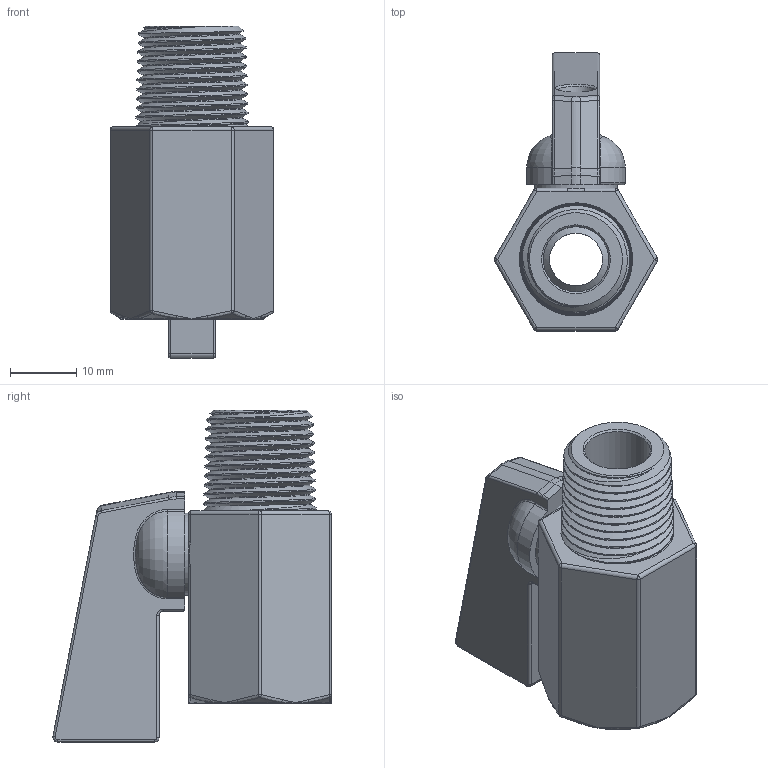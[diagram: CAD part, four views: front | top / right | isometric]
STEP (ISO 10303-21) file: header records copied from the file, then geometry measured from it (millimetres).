
FILE_DESCRIPTION (( 'STEP AP214' ), '1' );
FILE_NAME ('.375 FNPT X .375 MNPT VALVE.STEP', '2022-05-02T17:05:44', ( '' ), ( '' ), 'SwSTEP 2.0', 'SolidWorks 2018', '' );
FILE_SCHEMA (( 'AUTOMOTIVE_DESIGN' ));
Length unit declared in the file: inch
Products named in the file (1): .375 FNPT X .375 MNPT VALVE
Bounding box: 24.77 x 42.13 x 50.29 mm (x, y, z)
Volume: 15425.7 mm3; surface area: 9291.3 mm2
Topology: 4 solids, 4 shells, 186 faces, 428 edges, 235 vertices
Faces by surface type: cylinder 59, bspline 46, plane 41, sphere 16, cone 13, torus 11
Full cylindrical faces by diameter (mm): 2.794 x1, 4 x1, 4.001 x1, 4.276 x1, 4.889 x1, 5.587 x1, 6.095 x1, 8.001 x2, 9.906 x1, 12.446 x1, 21.59 x1
Entity records: 15880 total; most frequent: CARTESIAN_POINT 11014, ORIENTED_EDGE 764, DIRECTION 744, EDGE_CURVE 382, AXIS2_PLACEMENT_3D 313, VERTEX_POINT 228, EDGE_LOOP 218, FACE_OUTER_BOUND 198
